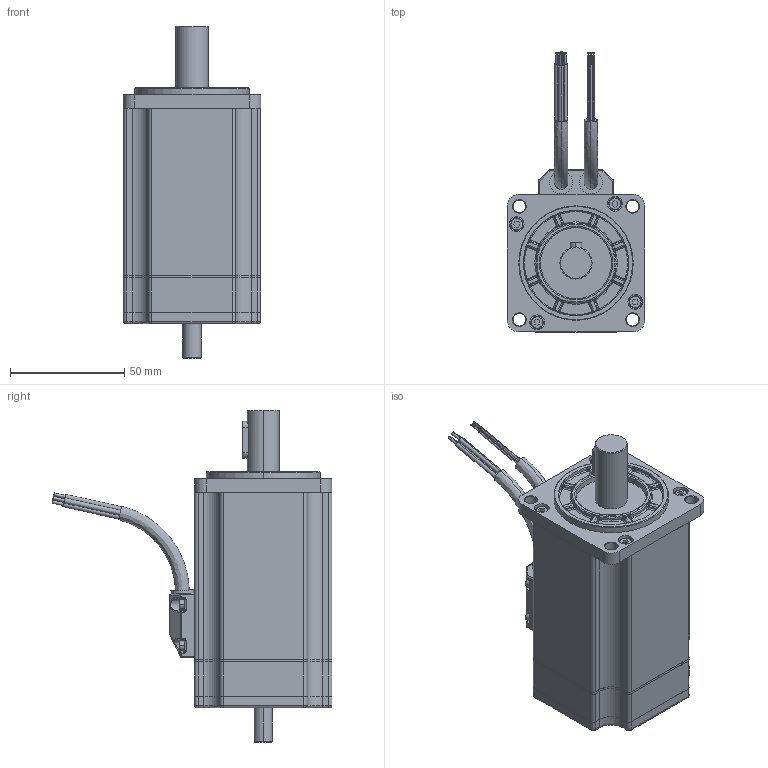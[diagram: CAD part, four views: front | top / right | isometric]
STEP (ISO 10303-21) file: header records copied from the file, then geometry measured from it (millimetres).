
FILE_DESCRIPTION (( 'STEP AP214' ), '1' );
FILE_NAME ('BLK242.STEP', '2021-12-09T16:28:56', ( '' ), ( '' ), 'SwSTEP 2.0', 'SolidWorks 2020', '' );
FILE_SCHEMA (( 'AUTOMOTIVE_DESIGN' ));
Length unit declared in the file: millimetre
Products named in the file (1): BLK242
Bounding box: 60 x 122.26 x 145 mm (x, y, z)
Volume: 336289.1 mm3; surface area: 37516.2 mm2
Topology: 1 solids, 1 shells, 798 faces, 1894 edges, 1107 vertices
Faces by surface type: cylinder 301, plane 216, torus 165, bspline 60, cone 34, sphere 22
Entity records: 33303 total; most frequent: CARTESIAN_POINT 6120, DIRECTION 4164, ORIENTED_EDGE 3702, EDGE_CURVE 1851, AXIS2_PLACEMENT_3D 1702, VERTEX_POINT 1106, CIRCLE 963, EDGE_LOOP 857
